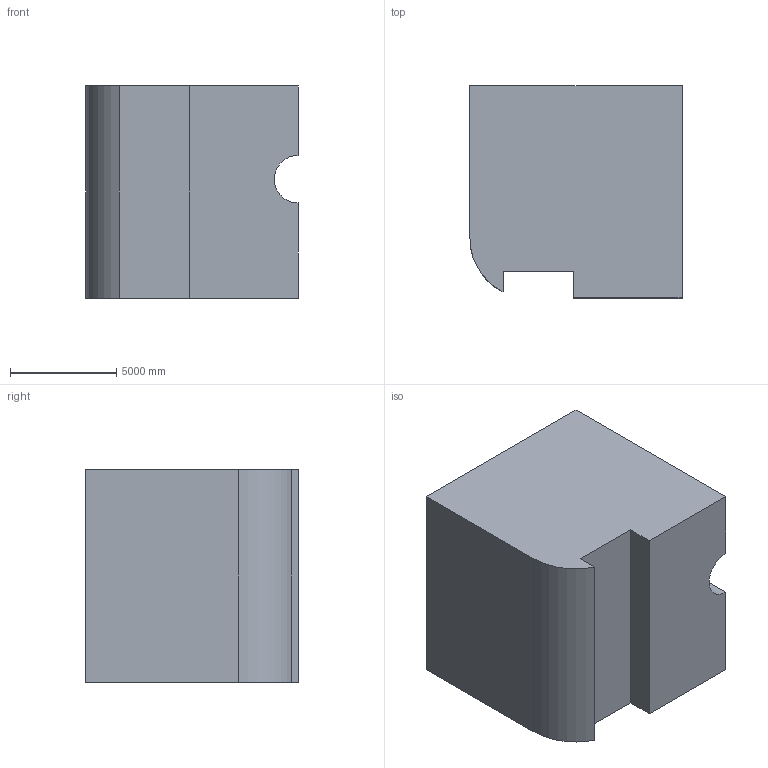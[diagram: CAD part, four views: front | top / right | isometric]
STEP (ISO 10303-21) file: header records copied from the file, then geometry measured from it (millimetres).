
FILE_DESCRIPTION (( 'STEP AP203' ), '1' );
FILE_NAME ('57.STEP', '2022-08-31T11:19:35', ( 'user' ), ( '' ), 'SwSTEP 2.0', 'SolidWorks 2021', '' );
FILE_SCHEMA (( 'CONFIG_CONTROL_DESIGN' ));
Length unit declared in the file: centimetre
Products named in the file (1): 57
Bounding box: 10000 x 10000 x 10000 mm (x, y, z)
Volume: 922390156502.3 mm3; surface area: 607141426.7 mm2
Topology: 1 solids, 1 shells, 12 faces, 30 edges, 20 vertices
Faces by surface type: plane 10, cylinder 2
Entity records: 435 total; most frequent: CARTESIAN_POINT 63, DIRECTION 60, ORIENTED_EDGE 60, EDGE_CURVE 30, LINE 26, VECTOR 26, VERTEX_POINT 20, AXIS2_PLACEMENT_3D 17
